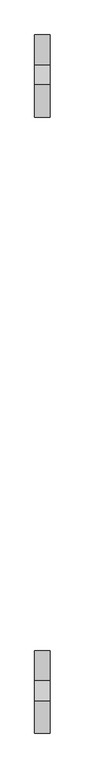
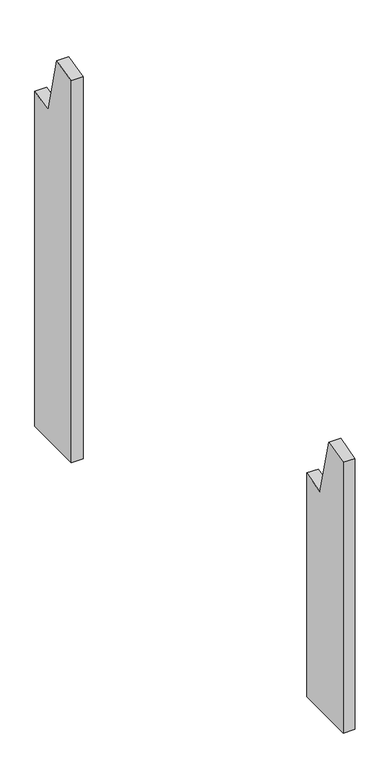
"""IFC4 building model written with IfcOpenShell, lengths in millimetres: proxy geometry, Modelos genéricos 87 : Modelos genéricos 5."""

from ifc_helpers import new_model, si_unit, frame, origin, place, context, project, spatial, polyline, outline, extrude, source, transform, mapped, element, save


def generic_models_3ca8df25(model_context):
    return source(origin(), model_context, "Body", "SweptSolid", [
        extrude(outline(polyline([(628.6238165, 3000.0), (468.6238165, 3000.0), (468.6238165, 4023.0972283), (531.6985696, 4038.8235305), (570.4060729, 3883.5762143), (628.6238165, 3898.0915281), (628.6238165, 3000.0)])), frame((1983.4472467, 0.0, 0.0), z_axis=(1.0, 0.0, 0.0), x_axis=(0.0, 1.0, 0.0)), (0.0, 0.0, 1.0), 30.0),
        extrude(outline(polyline([(-566.3761835, 3000.0), (-726.3761835, 3000.0), (-726.3761835, 3725.1502649), (-663.3014304, 3740.8765671), (-624.5939271, 3585.6292509), (-566.3761835, 3600.1445647), (-566.3761835, 3000.0)])), frame((1983.4472467, 0.0, 0.0), z_axis=(1.0, 0.0, 0.0), x_axis=(0.0, 1.0, 0.0)), (0.0, 0.0, 1.0), 30.0),
    ])


if __name__ == "__main__":
    model = new_model("IFC4")
    model_context = context("Model", 3, world=origin())
    ifc_project = project(units=[si_unit("LENGTHUNIT", "METRE", prefix="MILLI")], contexts=[model_context])
    site = spatial("IfcSite", under=ifc_project)
    building = spatial("IfcBuilding", under=site)
    placement = place(None, origin())
    generic_models_shape = generic_models_3ca8df25(model_context)
    element("IfcBuildingElementProxy", 1, Name="Modelos genéricos 87 : Modelos genéricos 5", ObjectType="Modelos genéricos 87 : Modelos genéricos 5", at=placement, inside=building, context=model_context, shape_type="MappedRepresentation", body=[
        mapped(generic_models_shape, transform((0.0, 0.0, 0.0), x_axis=(1.0, 0.0, 0.0), y_axis=(0.0, 1.0, 0.0), z_axis=(0.0, 0.0, 1.0))),
    ])
    save(model, "model.ifc")
